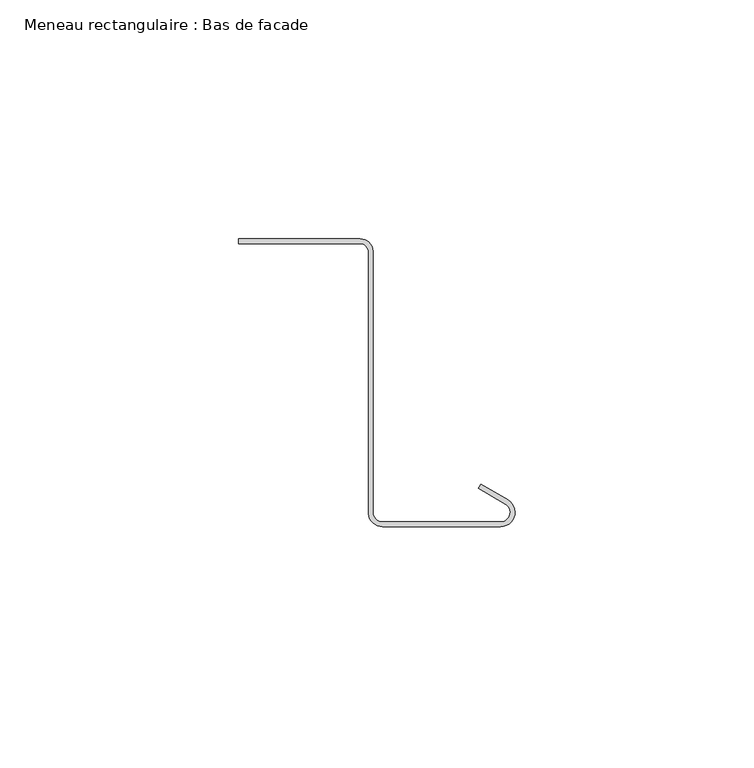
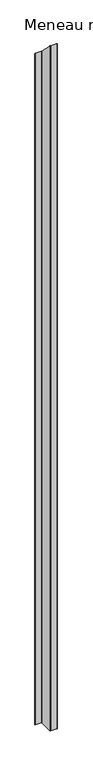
"""IFC4 building model written with IfcOpenShell, lengths in millimetres: member geometry, Meneau rectangulaire : Bas de facade."""

import ifcopenshell
import ifcopenshell.guid

model = None  # the IFC model being written
_history = None  # IfcOwnerHistory: only IFC2X3 demands one
_inside = {}  # id of a spatial element -> (the spatial element, [elements in it])
_under = {}  # id of a project, library or spatial element -> (it, [spatial elements below it])
_declared = {}  # id of a project -> (the project, [libraries it declares])
_typed = {}  # id of a type object -> (the type object, [elements of that type])
_made_of = {}  # id of a material, layer set ... -> (it, [elements and type objects made of it])


def new_model(schema):
    """Start an empty IFC model of exactly this schema.

    Asked for "IFC4X3", IfcOpenShell would pick the latest addendum, in which some entities
    have other attributes; the version numbers below select the first issue.
    IFC2X3 requires an IfcOwnerHistory on every rooted entity: one is made here for all.
    """
    global model, _history
    if schema == "IFC4X3":
        model = ifcopenshell.file(schema_version=(4, 3, 0, 0))
    else:
        model = ifcopenshell.file(schema=schema)
    _inside.clear()
    _under.clear()
    _declared.clear()
    _typed.clear()
    _made_of.clear()
    _history = None
    if model.schema == "IFC2X3":
        org = make("IfcOrganization", Name="unknown")
        user = make(
            "IfcPersonAndOrganization",
            ThePerson=make("IfcPerson", FamilyName="unknown"),
            TheOrganization=org,
        )
        app = make(
            "IfcApplication",
            ApplicationDeveloper=org,
            Version="unknown",
            ApplicationFullName="unknown",
            ApplicationIdentifier="unknown",
        )
        _history = make(
            "IfcOwnerHistory",
            OwningUser=user,
            OwningApplication=app,
            ChangeAction="ADDED",
            CreationDate=0,
        )
    return model


def make(cls, **values):
    """One entity of the class cls with the attributes given. An attribute that is None is left unset."""
    return model.create_entity(
        cls, **{name: value for name, value in values.items() if value is not None}
    )


def rooted(cls, **values):
    """An entity with a GlobalId (a new one), such as an element, a storey or a relation."""
    return make(cls, GlobalId=ifcopenshell.guid.new(), OwnerHistory=_history, **values)


def si_unit(unit_type, name, prefix=None):
    """IfcSIUnit, for example si_unit("LENGTHUNIT", "METRE", prefix="MILLI")."""
    return make("IfcSIUnit", UnitType=unit_type, Prefix=prefix, Name=name)


def assignment(units):
    """IfcUnitAssignment: the units of a project."""
    return None if units is None else make("IfcUnitAssignment", Units=units)


def point(xyz):
    """IfcCartesianPoint."""
    return None if xyz is None else make("IfcCartesianPoint", Coordinates=xyz)


def direction(xyz):
    """IfcDirection."""
    return None if xyz is None else make("IfcDirection", DirectionRatios=xyz)


def frame(location, z_axis=None, x_axis=None):
    """IfcAxis2Placement3D, a coordinate frame: its origin and axes. An axis left out is left unset."""
    return make(
        "IfcAxis2Placement3D",
        Location=point(location),
        Axis=direction(z_axis),
        RefDirection=direction(x_axis),
    )


def origin():
    """The frame at (0, 0, 0) with its axes left unset."""
    return frame((0.0, 0.0, 0.0))


def place(relative_to, where):
    """IfcLocalPlacement: puts the frame where relative to a parent placement (None: the world)."""
    return make(
        "IfcLocalPlacement", PlacementRelTo=relative_to, RelativePlacement=where
    )


def context(
    kind, dimensions, precision=None, world=None, true_north=None, identifier=None
):
    """IfcGeometricRepresentationContext, for example the 3D "Model" context."""
    return make(
        "IfcGeometricRepresentationContext",
        ContextIdentifier=identifier,
        ContextType=kind,
        CoordinateSpaceDimension=dimensions,
        Precision=precision,
        WorldCoordinateSystem=world,
        TrueNorth=true_north,
    )


def project(units=None, contexts=None):
    """IfcProject with its units and contexts."""
    return rooted(
        "IfcProject",
        Name="project",
        RepresentationContexts=contexts,
        UnitsInContext=assignment(units),
    )


def spatial(cls, under=None, at=None, **own):
    """A site, building, storey or space (cls), placed at a placement, below another one or the project."""
    s = rooted(cls, ObjectPlacement=at, **own)
    if under is not None:
        _under.setdefault(under.id(), (under, []))[1].append(s)
    return s


def polyline(points):
    """IfcPolyline through the points."""
    return make("IfcPolyline", Points=[point(p) for p in points])


def circle_curve(where, radius):
    """IfcCircle in the frame where."""
    return make("IfcCircle", Position=where, Radius=radius)


def ellipse_curve(where, semi_axis1, semi_axis2):
    """IfcEllipse in the frame where."""
    return make(
        "IfcEllipse", Position=where, SemiAxis1=semi_axis1, SemiAxis2=semi_axis2
    )


def shape(context_of_items, identifier, shape_type, items):
    """IfcShapeRepresentation: the items that make up one representation, for example the "Body"."""
    return make(
        "IfcShapeRepresentation",
        ContextOfItems=context_of_items,
        RepresentationIdentifier=identifier,
        RepresentationType=shape_type,
        Items=items,
    )


def source(mapping_origin, context_of_items, identifier, shape_type, items):
    """IfcRepresentationMap: a shape defined once, which mapped items show again and again."""
    return make(
        "IfcRepresentationMap",
        MappingOrigin=mapping_origin,
        MappedRepresentation=shape(context_of_items, identifier, shape_type, items),
    )


def transform(
    local_origin,
    x_axis=None,
    y_axis=None,
    z_axis=None,
    scale=None,
    scale2=None,
    scale3=None,
    uniform=True,
):
    """IfcCartesianTransformationOperator3D, or its non-uniform kind. x_axis, y_axis, z_axis: its Axis1, 2, 3."""
    if uniform:
        return make(
            "IfcCartesianTransformationOperator3D",
            Axis1=direction(x_axis),
            Axis2=direction(y_axis),
            LocalOrigin=point(local_origin),
            Scale=scale,
            Axis3=direction(z_axis),
        )
    return make(
        "IfcCartesianTransformationOperator3DnonUniform",
        Axis1=direction(x_axis),
        Axis2=direction(y_axis),
        LocalOrigin=point(local_origin),
        Scale=scale,
        Axis3=direction(z_axis),
        Scale2=scale2,
        Scale3=scale3,
    )


def mapped(mapping_source, mapping_target):
    """IfcMappedItem: shows the shape of a source again, moved by a transform."""
    return make(
        "IfcMappedItem", MappingSource=mapping_source, MappingTarget=mapping_target
    )


def made_of(thing, what):
    """Note that an element or type object is made of a material, layer set ...; save() writes the relation."""
    if what is not None:
        _made_of.setdefault(what.id(), (what, []))[1].append(thing)
    return thing


def element(
    cls,
    number,
    at=None,
    inside=None,
    cuts=None,
    type_object=None,
    material=None,
    context=None,
    identifier="Body",
    shape_type=None,
    held_by="IfcProductDefinitionShape",
    body=None,
    shapes=None,
    **own,
):
    """One element of the class cls, such as IfcWall. Its Tag is "e" and its number.

    at: its placement. inside: the storey or other place that contains it. cuts: it is an
    opening in that element (IfcRelVoidsElement). A single representation is given by context,
    identifier, shape_type and body (its items); several are given by shapes. held_by: the class
    of the entity that holds the representations. save() writes the other relations.
    """
    e = rooted(cls, Tag="e%d" % number, ObjectPlacement=at, **own)
    if body is not None:
        shapes = [shape(context, identifier, shape_type, body)]
    if shapes is not None:
        e.Representation = make(held_by, Representations=shapes)
    if inside is not None:
        _inside.setdefault(inside.id(), (inside, []))[1].append(e)
    if cuts is not None:
        rooted(
            "IfcRelVoidsElement", RelatingBuildingElement=cuts, RelatedOpeningElement=e
        )
    if type_object is not None:
        _typed.setdefault(type_object.id(), (type_object, []))[1].append(e)
    return made_of(e, material)


def aggregate(whole, parts):
    """IfcRelAggregates: a whole, such as a stair, and the parts it consists of."""
    return rooted("IfcRelAggregates", RelatingObject=whole, RelatedObjects=parts)


def save(model, path):
    """Write the relations noted so far, then the file.

    IfcRelAggregates (storeys below a building ...), IfcRelContainedInSpatialStructure (elements
    in a storey), IfcRelDefinesByType, IfcRelAssociatesMaterial and IfcRelDeclares: one each for
    every whole, place, type object, material and project.
    """
    for whole, parts in _under.values():
        aggregate(whole, parts)
    for where, things in _inside.values():
        rooted(
            "IfcRelContainedInSpatialStructure",
            RelatedElements=things,
            RelatingStructure=where,
        )
    for kind, things in _typed.values():
        rooted("IfcRelDefinesByType", RelatedObjects=things, RelatingType=kind)
    for what, things in _made_of.values():
        rooted("IfcRelAssociatesMaterial", RelatedObjects=things, RelatingMaterial=what)
    for by, libraries in _declared.values():
        rooted("IfcRelDeclares", RelatingContext=by, RelatedDefinitions=libraries)
    model.write(path)


def plane_surface(at):
    """IfcPlane: the flat surface through the origin of the frame at, square to its z axis."""
    return make("IfcPlane", Position=at)


def cylinder_surface(at, radius):
    """IfcCylindricalSurface: all points at the distance radius from the z axis of the frame at."""
    return make("IfcCylindricalSurface", Position=at, Radius=radius)


def revolved_surface(curve, axis_point, axis_direction):
    """IfcSurfaceOfRevolution: the curve turned about the line through axis_point along axis_direction."""
    return make(
        "IfcSurfaceOfRevolution",
        SweptCurve=make("IfcArbitraryOpenProfileDef", ProfileType="CURVE", Curve=curve),
        AxisPosition=make("IfcAxis1Placement", Location=point(axis_point), Axis=direction(axis_direction)),
    )


def advanced_brep(points, edges, surfaces, faces):
    """IfcAdvancedBrep: a solid bounded by faces that lie on surfaces and meet in shared edges.

    An edge is (start, end): straight between two places in points (the first is 0);
    or (start, end, curve); or (start, end, curve, False) where it runs against its curve.
    A face is (place in surfaces, loops), or (place, loops, False) where it looks against
    its surface's normal. A loop lists edges by number (the first is 1), with a minus sign
    where the edge is run from its end to its start. The first loop is the outer one.
    """
    corners = [point(p) for p in points]
    vertices = [make("IfcVertexPoint", VertexGeometry=c) for c in corners]
    made = []
    for start, end, *more in edges:
        made.append(
            make(
                "IfcEdgeCurve",
                EdgeStart=vertices[start],
                EdgeEnd=vertices[end],
                EdgeGeometry=more[0] if more else make("IfcPolyline", Points=[corners[start], corners[end]]),
                SameSense=more[1] if len(more) > 1 else True,
            )
        )
    hull = []
    for where, loops, *sense in faces:
        bounds = []
        for j, loop in enumerate(loops):
            ring = [make("IfcOrientedEdge", EdgeElement=made[abs(k) - 1], Orientation=k > 0) for k in loop]
            bounds.append(
                make(
                    "IfcFaceOuterBound" if j == 0 else "IfcFaceBound",
                    Bound=make("IfcEdgeLoop", EdgeList=ring),
                    Orientation=True,
                )
            )
        hull.append(make("IfcAdvancedFace", Bounds=bounds, FaceSurface=surfaces[where], SameSense=sense[0] if sense else True))
    return make("IfcAdvancedBrep", Outer=make("IfcClosedShell", CfsFaces=hull))


def meneau_rectangulaire_bas_de_facade_78978f85(model_context):
    return source(origin(), model_context, "Body", "AdvancedBrep", [
        advanced_brep(
        [(-32.4584179, 2.9588923, -2900.0), (-29.7143802, 0.3898824, -2900.0), (-29.7143802, -54.5495817, -2900.0), (-27.735368, -56.2605998, -2900.0), (-3.0, -56.2605998, -2900.0), (-2.0, -52.528549, -2900.0), (-7.6638061, -49.258549, -2900.0), (-7.1638061, -48.3925235, -2900.0), (-1.5, -51.6625235, -2900.0), (-3.0, -57.2605998, -2900.0), (-27.735368, -57.2605998, -2900.0), (-30.7239521, -54.522067, -2900.0), (-30.7239521, 0.4415475, -2900.0), (-32.4584179, 1.9588923, -2900.0), (-57.8548383, 1.9588923, -2900.0), (-57.8548383, 2.9588923, -2900.0), (-57.8548383, 2.9588923, -2.9588923), (-32.4584179, 2.9588923, -2.9588923), (-57.8548383, 1.9588923, -1.9588923), (-32.4584179, 1.9588923, -1.9588923), (-30.7239521, 0.4415475, -0.4415475), (-30.7239521, -54.522067, 54.522067), (-27.735368, -57.2605998, 57.2605998), (-3.0, -57.2605998, 57.2605998), (-1.5, -51.6625235, 51.6625235), (-7.1638061, -48.3925235, 48.3925235), (-7.6638061, -49.258549, 49.258549), (-2.0, -52.528549, 52.528549), (-3.0, -56.2605998, 56.2605998), (-27.735368, -56.2605998, 56.2605998), (-29.7143802, -54.5495817, 54.5495817), (-29.7143802, 0.3898824, -0.3898824)],
        [
            (0, 1, circle_curve(frame((-32.4584179, 0.2088923, -2900.0), z_axis=(0.0, 0.0, -1.0), x_axis=(0.0, 1.0, 0.0)), 2.75)),
            (1, 2),
            (2, 3, circle_curve(frame((-27.735368, -54.2605998, -2900.0), z_axis=(0.0, 0.0, 1.0), x_axis=(-0.9961946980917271, -0.08715574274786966, 0.0)), 2.0)),
            (3, 4),
            (4, 5, circle_curve(frame((-3.0, -54.2605998, -2900.0), z_axis=(0.0, 0.0, 1.0), x_axis=(0.0, -1.0, 0.0)), 2.0)),
            (5, 6),
            (6, 7),
            (7, 8),
            (8, 9, circle_curve(frame((-3.0, -54.2605998, -2900.0), z_axis=(0.0, 0.0, -1.0), x_axis=(0.0, -1.0, 0.0)), 3.0)),
            (9, 10),
            (10, 11, circle_curve(frame((-27.735368, -54.2605998, -2900.0), z_axis=(0.0, 0.0, -1.0), x_axis=(-0.9961946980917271, -0.08715574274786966, 0.0)), 3.0)),
            (11, 12),
            (12, 13, circle_curve(frame((-32.4584179, 0.2088923, -2900.0), z_axis=(0.0, 0.0, 1.0), x_axis=(0.0, 1.0, 0.0)), 1.75)),
            (13, 14),
            (14, 15),
            (15, 0),
            (16, 17),
            (17, 0),
            (15, 16),
            (18, 16),
            (14, 18),
            (19, 18),
            (13, 19),
            (20, 19, ellipse_curve(frame((-32.4584179, 0.2088923, -0.2088923), z_axis=(0.0, 0.7071067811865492, 0.7071067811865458), x_axis=(0.0, 0.7071067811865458, -0.7071067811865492)), 2.4748737, 1.75)),
            (12, 20),
            (21, 20),
            (11, 21),
            (22, 21, ellipse_curve(frame((-27.735368, -54.2605998, 54.2605998), z_axis=(0.0, -0.7071067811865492, -0.7071067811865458), x_axis=(0.0, -0.7071067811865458, 0.7071067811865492)), 4.2426407, 3.0)),
            (10, 22),
            (23, 22),
            (9, 23),
            (24, 23, ellipse_curve(frame((-3.0, -54.2605998, 54.2605998), z_axis=(0.0, -0.7071067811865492, -0.7071067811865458), x_axis=(0.0, -0.7071067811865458, 0.7071067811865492)), 4.2426407, 3.0)),
            (8, 24),
            (25, 24),
            (7, 25),
            (26, 25),
            (6, 26),
            (27, 26),
            (5, 27),
            (28, 27, ellipse_curve(frame((-3.0, -54.2605998, 54.2605998), z_axis=(0.0, 0.7071067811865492, 0.7071067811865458), x_axis=(0.0, 0.7071067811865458, -0.7071067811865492)), 2.8284271, 2.0)),
            (4, 28),
            (29, 28),
            (3, 29),
            (30, 29, ellipse_curve(frame((-27.735368, -54.2605998, 54.2605998), z_axis=(0.0, 0.7071067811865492, 0.7071067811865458), x_axis=(0.0, 0.7071067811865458, -0.7071067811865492)), 2.8284271, 2.0)),
            (2, 30),
            (31, 30),
            (1, 31),
            (17, 31, ellipse_curve(frame((-32.4584179, 0.2088923, -0.2088923), z_axis=(0.0, -0.7071067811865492, -0.7071067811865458), x_axis=(0.0, -0.7071067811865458, 0.7071067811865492)), 3.8890873, 2.75)),
        ],
        [
            plane_surface(frame((0.0, -63.8351035, -2900.0), z_axis=(0.0, 0.0, -1.0), x_axis=(-1.0, 0.0, 0.0))),
            plane_surface(frame((-32.4584179, 2.9588923, 0.0), z_axis=(0.0, 1.0, 0.0), x_axis=(0.0, 0.0, -1.0))),
            plane_surface(frame((-57.8548383, 2.9588923, 0.0), z_axis=(-1.0, 0.0, 0.0), x_axis=(0.0, 0.0, -1.0))),
            plane_surface(frame((-57.8548383, 1.9588923, 0.0), z_axis=(0.0, -1.0, 0.0), x_axis=(0.0, 0.0, -1.0))),
            revolved_surface(polyline([(-32.4584179, 1.9588923, -2900.0), (-32.4584179, 1.9588923, 1.5411076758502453)]), (-32.4584179, 0.2088923, 0.0), (0.0, 0.0, -1.0)),
            plane_surface(frame((-30.7239521, 0.4415475, 0.0), z_axis=(-1.0, 0.0, 0.0), x_axis=(0.0, 0.0, -1.0))),
            cylinder_surface(frame((-27.735368, -54.2605998, 0.0), z_axis=(0.0, 0.0, 1.0000000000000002), x_axis=(-0.9961946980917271, -0.08715574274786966, 0.0)), 3.0),
            plane_surface(frame((-27.735368, -57.2605998, 0.0), z_axis=(0.0, -1.0, 0.0), x_axis=(0.0, 0.0, -1.0))),
            cylinder_surface(frame((-3.0, -54.2605998, 0.0), z_axis=(0.0, 0.0, 1.0), x_axis=(0.0, -1.0, 0.0)), 3.0),
            plane_surface(frame((-1.5, -51.6625235, 0.0), z_axis=(0.5000000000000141, 0.8660254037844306, 0.0), x_axis=(0.0, 0.0, -1.0))),
            plane_surface(frame((-7.1638061, -48.3925235, 0.0), z_axis=(-0.8660254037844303, 0.5000000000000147, 0.0), x_axis=(0.0, 0.0, -1.0))),
            plane_surface(frame((-7.6638061, -49.258549, 0.0), z_axis=(-0.500000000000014, -0.8660254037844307, 0.0), x_axis=(0.0, 0.0, -1.0))),
            revolved_surface(polyline([(-3.0, -56.2605998, -2900.0), (-3.0, -56.2605998, 56.2605998)]), (-3.0, -54.2605998, 0.0), (0.0, 0.0, -1.0)),
            plane_surface(frame((-3.0, -56.2605998, 0.0), z_axis=(0.0, 1.0, 0.0), x_axis=(0.0, 0.0, -1.0))),
            revolved_surface(polyline([(-29.727757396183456, -54.434911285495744, -2900.000000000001), (-29.727757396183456, -54.434911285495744, 56.26059980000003)]), (-27.735368, -54.2605998, 0.0), (0.0, 0.0, -1.0000000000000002)),
            plane_surface(frame((-29.7143802, -54.5495817, 0.0), z_axis=(1.0, 0.0, 0.0), x_axis=(0.0, 0.0, -1.0))),
            cylinder_surface(frame((-32.4584179, 0.2088923, 0.0), z_axis=(0.0, 0.0, 1.0), x_axis=(0.0, 1.0, 0.0)), 2.75),
            plane_surface(frame((-304.8, 0.0, 0.0), z_axis=(0.0, 0.7071067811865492, 0.7071067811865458), x_axis=(0.0, 0.7071067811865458, -0.7071067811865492))),
        ],
        [
            (0, [[1, 2, 3, 4, 5, 6, 7, 8, 9, 10, 11, 12, 13, 14, 15, 16]]),
            (1, [[17, 18, -16, 19]]),
            (2, [[20, -19, -15, 21]]),
            (3, [[22, -21, -14, 23]]),
            (4, [[24, -23, -13, 25]]),
            (5, [[26, -25, -12, 27]]),
            (6, [[28, -27, -11, 29]]),
            (7, [[30, -29, -10, 31]]),
            (8, [[32, -31, -9, 33]]),
            (9, [[34, -33, -8, 35]]),
            (10, [[36, -35, -7, 37]]),
            (11, [[38, -37, -6, 39]]),
            (12, [[40, -39, -5, 41]]),
            (13, [[42, -41, -4, 43]]),
            (14, [[44, -43, -3, 45]]),
            (15, [[46, -45, -2, 47]]),
            (16, [[48, -47, -1, -18]]),
            (17, [[-17, -20, -22, -24, -26, -28, -30, -32, -34, -36, -38, -40, -42, -44, -46, -48]]),
        ],
    ),
    ])


if __name__ == "__main__":
    model = new_model("IFC4")
    model_context = context("Model", 3, world=origin())
    ifc_project = project(units=[si_unit("LENGTHUNIT", "METRE", prefix="MILLI")], contexts=[model_context])
    site = spatial("IfcSite", under=ifc_project)
    building = spatial("IfcBuilding", under=site)
    placement = place(None, origin())
    meneau_rectangulaire_bas_de_facade_shape = meneau_rectangulaire_bas_de_facade_78978f85(model_context)
    element("IfcMember", 1, ObjectType="Meneau rectangulaire : Bas de facade", at=placement, inside=building, context=model_context, shape_type="MappedRepresentation", body=[
        mapped(meneau_rectangulaire_bas_de_facade_shape, transform((0.0, 0.0, 0.0), x_axis=(1.0, 0.0, 0.0), y_axis=(0.0, 1.0, 0.0), z_axis=(0.0, 0.0, 1.0))),
    ])
    save(model, "model.ifc")
